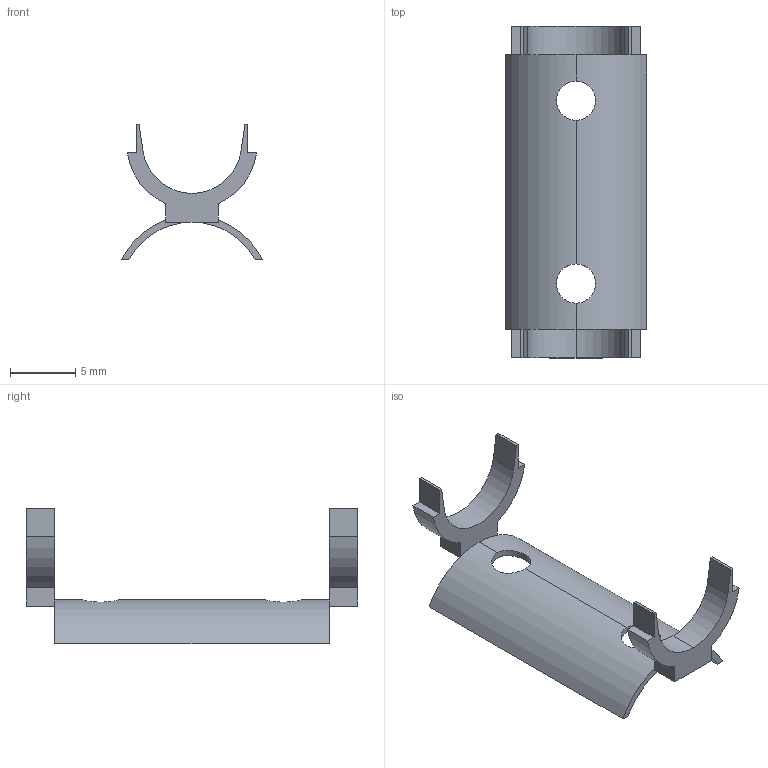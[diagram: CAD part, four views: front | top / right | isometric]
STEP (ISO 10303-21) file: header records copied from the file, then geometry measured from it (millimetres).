
FILE_DESCRIPTION (( 'STEP AP203' ), '1' );
FILE_NAME ('DHLF08.STEP', '2018-10-25T03:40:15', ( '' ), ( '' ), 'SwSTEP 2.0', 'SolidWorks 2012', '' );
FILE_SCHEMA (( 'CONFIG_CONTROL_DESIGN' ));
Length unit declared in the file: millimetre
Products named in the file (1): DHLF08
Bounding box: 10.8 x 25.4 x 10.38 mm (x, y, z)
Volume: 218 mm3; surface area: 793.8 mm2
Topology: 1 solids, 1 shells, 47 faces, 139 edges, 90 vertices
Faces by surface type: plane 32, cylinder 15
Entity records: 1824 total; most frequent: CARTESIAN_POINT 493, ORIENTED_EDGE 278, DIRECTION 245, EDGE_CURVE 139, VECTOR 97, LINE 97, VERTEX_POINT 90, AXIS2_PLACEMENT_3D 74
